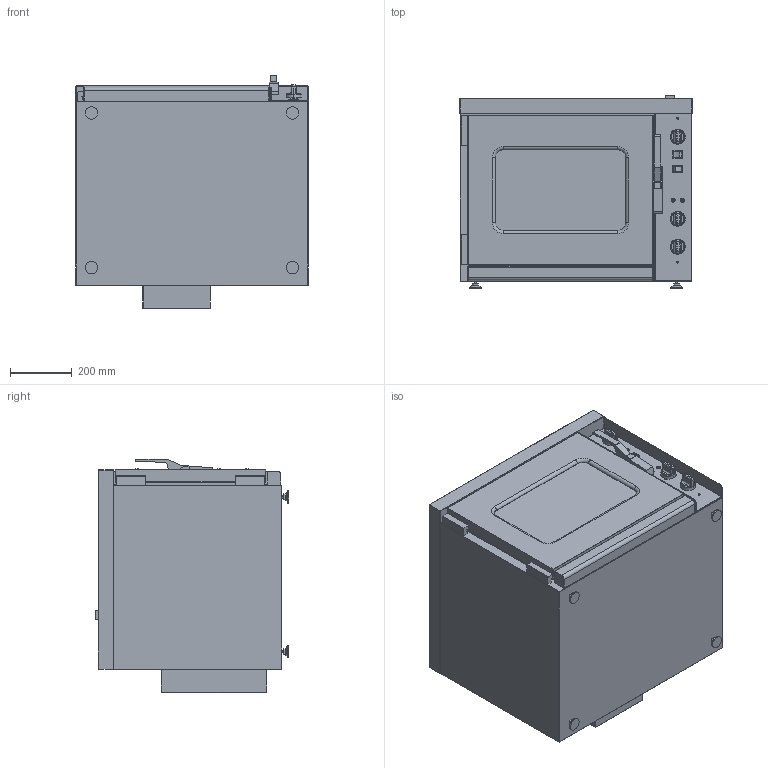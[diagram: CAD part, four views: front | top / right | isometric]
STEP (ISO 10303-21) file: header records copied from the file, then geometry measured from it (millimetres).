
FILE_DESCRIPTION((''),'2;1');
FILE_NAME('CFE706CT_INV_EXPORT_STEP_ASM','2018-01-22T12:06:43',('m.grapin'),(''),'CREO PARAMETRIC BY PTC INC, 2017260','CREO PARAMETRIC BY PTC INC, 2017260','');
FILE_SCHEMA(('AP203_CONFIGURATION_CONTROLLED_3D_DESIGN_OF_MECHANICAL_PARTS_AND_ASSEMBLIES_MIM_LF { 1 0 10303 403 2 1 2 }'));
Length unit declared in the file: millimetre
Products named in the file (13): 65141003; CFE706CT_INV_EXPORT_STEP; 6532023POIGNEE; 65039145; MANETTE_AMB_SANS_COLLERETTE; BASCULEUR_AMB_EXPORT_DXF; 65129051; 65231007; 65490006; 65244010; 65290011; 90000125_ASM; CFE706CT_INV_EXPORT_STEP_ASM
Assembly tree (20 placements, depth 3):
  CFE706CT_INV_EXPORT_STEP_ASM
    65141003  x4
    CFE706CT_INV_EXPORT_STEP
    6532023POIGNEE
    65039145
    MANETTE_AMB_SANS_COLLERETTE  x3
    BASCULEUR_AMB_EXPORT_DXF  x2
    90000125_ASM  x2
      65129051
      65231007
      65490006
      65244010
      65290011
Bounding box: 750 x 626 x 753.03 mm (x, y, z)
Volume: 286314701.5 mm3; surface area: 3181377 mm2
Topology: 24 solids, 28 shells, 725 faces, 1735 edges, 1089 vertices
Faces by surface type: plane 366, cylinder 205, sphere 46, bspline 44, cone 36, torus 28
Entity records: 19886 total; most frequent: CARTESIAN_POINT 3801, DIRECTION 2445, ORIENTED_EDGE 2074, EDGE_CURVE 1039, AXIS2_PLACEMENT_3D 894, VERTEX_POINT 649, VECTOR 619, LINE 619
